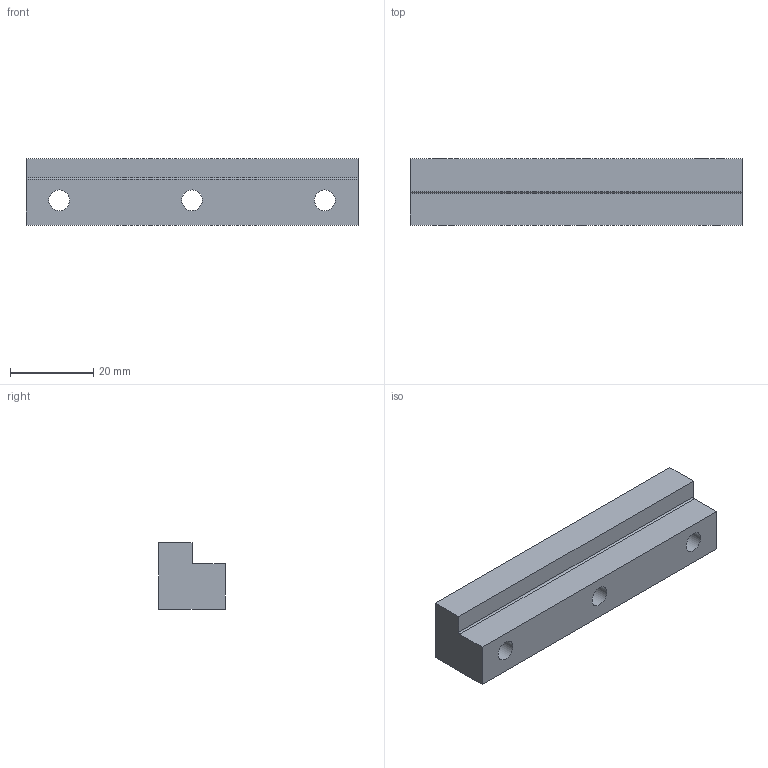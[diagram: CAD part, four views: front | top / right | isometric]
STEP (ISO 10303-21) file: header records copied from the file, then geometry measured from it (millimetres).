
FILE_DESCRIPTION(/* description */ ('STEP AP214'),/* implementation_level */ '2;1');
FILE_NAME(/* name */ 'F31191608080',/* time_stamp */ '2024-06-21T14:35:17+02:00',/* author */ ('License CC BY-ND 4.0'),/* organization */ ('CADENAS'),/* preprocessor_version */ 'ST-DEVELOPER v19.3',/* originating_system */ 'PARTsolutions',/* authorisation */ ' ');
FILE_SCHEMA (('AUTOMOTIVE_DESIGN {1 0 10303 214 3 1 1}'));
Length unit declared in the file: millimetre
Products named in the file (1): F31191608080
Bounding box: 80 x 16 x 16 mm (x, y, z)
Volume: 15887.9 mm3; surface area: 6325.3 mm2
Topology: 1 solids, 1 shells, 18 faces, 39 edges, 26 vertices
Faces by surface type: plane 11, cylinder 7
Full cylindrical faces by diameter (mm): 5 x3, 7 x3
Entity records: 509 total; most frequent: DIRECTION 85, CARTESIAN_POINT 78, ORIENTED_EDGE 66, EDGE_CURVE 33, EDGE_LOOP 33, FACE_BOUND 33, AXIS2_PLACEMENT_3D 33, VERTEX_POINT 26
